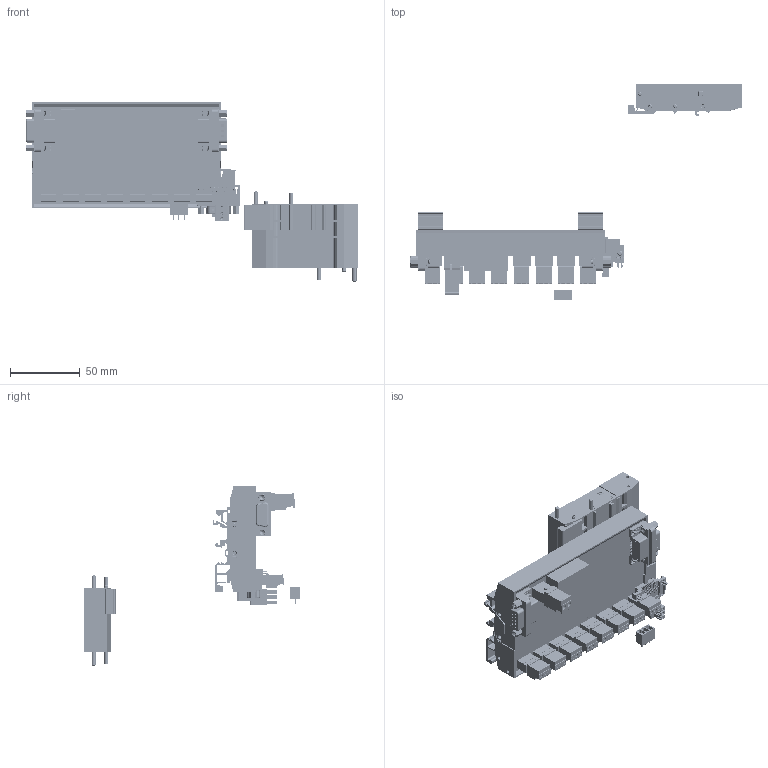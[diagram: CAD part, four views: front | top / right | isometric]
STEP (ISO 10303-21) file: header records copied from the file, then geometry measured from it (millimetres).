
FILE_DESCRIPTION( ( 'Unknown' ), '1' );
FILE_NAME( 'C:/Users/CAD/Documents/Projekte/EMS Produkte/CRep S8C/CRep S8C.stp', 'Unknown', ( 'el' ), ( 'EMS Dr. Thomas Wuensche' ), 'PSStep 14.0', 'Unknown', ' ' );
FILE_SCHEMA( ( 'AUTOMOTIVE_DESIGN { 1 0 10303 214 1 1 1 1 }' ) );
Length unit declared in the file: millimetre
Products named in the file (148): 10090767p094xlf; 10090767p094xlf_Buchse; Assem1; 10090767p094xlf_02; 10090767p094xlf_04; 10090767p094xlf_05; 10090767p094xlf_06; 10090767p094xlf_07; 10090767p094xlf_08; 10090767p094xlf_09; 10090767p094xlf_11; 10090767p094xlf_12; 10090767p094xlf_13; 10090767p094xlf_14; 10090767p094xlf_15; 10090767p094xlf_16; 10090767p094xlf_18; 10090767p094xlf_19; 10090767p094xlf_20; 10090767p094xlf_21; 10090767p094xlf_22; 10090767p094xlf_23; 10090767p094xlf_25; 10090767p094xlf_26; 10090767p094xlf_27; 10090767p094xlf_28; 10090767p094xlf_29; 10090767p094xlf_30; 10090767p094xlf_32; 10090767p094xlf_33; 10090767p094xlf_34; 10090767p094xlf_35; 10090767p094xlf_36; 10090767p094xlf_37; 10090767p094xlf_39; 10090767p094xlf_40; 10090767p094xlf_41; 10090767p094xlf_42; 10090767p094xlf_43; 10090767p094xlf_44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
Bounding box: 238.69 x 154.76 x 128.9 mm (x, y, z)
Volume: 200269 mm3; surface area: 235871.5 mm2
Topology: 442 solids, 442 shells, 16450 faces, 42828 edges, 27705 vertices
Faces by surface type: plane 8272, bspline 4074, cylinder 3193, torus 498, cone 305, sphere 108
Full cylindrical faces by diameter (mm): 1.1 x81, 1.2 x27, 1.7 x13, 1.8 x54, 2 x24, 2.4 x25, 2.6 x4, 2.721 x27, 2.81 x10, 2.9 x3, 3 x39, 3.05 x16, 3.1 x6, 3.2 x12, 3.8 x4, 3.84 x24, 4 x6, 4.1 x24, 4.64 x12, 5.2 x12
Entity records: 320458 total; most frequent: CARTESIAN_POINT 150870, ORIENTED_EDGE 26150, DIRECTION 19440, EDGE_CURVE 13075, VERTEX_POINT 8565, PRESENTATION_STYLE_ASSIGNMENT 7505, COLOUR_RGB 7505, STYLED_ITEM 7438
